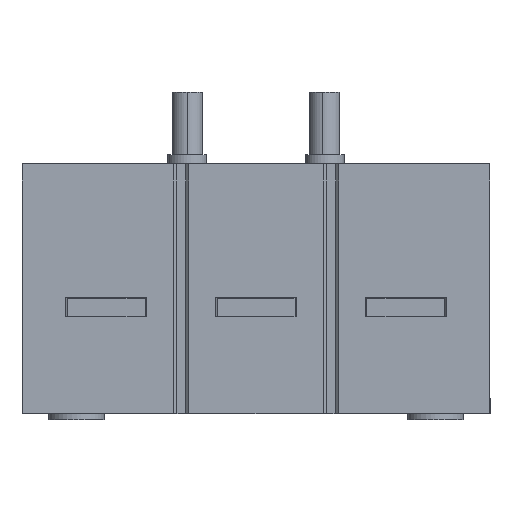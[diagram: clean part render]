
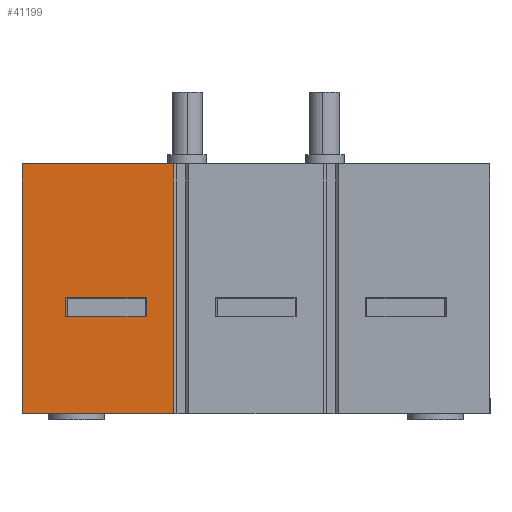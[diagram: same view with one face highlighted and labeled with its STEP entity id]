
A CAD part, front view. The second image highlights one B-rep face of the part: STEP entity #41199.
In plain terms, the highlighted planar face has unit normal (0, -1, 0) as drawn and (1, 0, 0) by its records, which use the part's own axes.
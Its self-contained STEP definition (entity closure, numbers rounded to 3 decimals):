
#1562 = VERTEX_POINT ( 'NONE', #21290 ) ;
#1852 = CARTESIAN_POINT ( 'NONE',  ( 138., 80., 26.5 ) ) ;
#3495 = DIRECTION ( 'NONE',  ( 0., 0., 1. ) ) ;
#3723 = CARTESIAN_POINT ( 'NONE',  ( 138., 0., 26.5 ) ) ;
#4289 = VECTOR ( 'NONE', #8763, 1000. ) ;
#4494 = EDGE_CURVE ( 'NONE', #46233, #1562, #16596, .T. ) ;
#5103 = VECTOR ( 'NONE', #3495, 1000. ) ;
#5249 = ORIENTED_EDGE ( 'NONE', *, *, #8205, .T. ) ;
#7055 = VERTEX_POINT ( 'NONE', #35268 ) ;
#7261 = ORIENTED_EDGE ( 'NONE', *, *, #4494, .T. ) ;
#7865 = LINE ( 'NONE', #40661, #5103 ) ;
#8205 = EDGE_CURVE ( 'NONE', #44577, #14861, #17749, .T. ) ;
#8602 = VECTOR ( 'NONE', #14088, 1000. ) ;
#8763 = DIRECTION ( 'NONE',  ( 0., -1., 0. ) ) ;
#9161 = EDGE_CURVE ( 'NONE', #12284, #39030, #19150, .T. ) ;
#10694 = DIRECTION ( 'NONE',  ( 0., 1., 0. ) ) ;
#10931 = DIRECTION ( 'NONE',  ( -1., 0., 0. ) ) ;
#12284 = VERTEX_POINT ( 'NONE', #49931 ) ;
#13390 = EDGE_CURVE ( 'NONE', #51275, #12284, #7865, .T. ) ;
#14088 = DIRECTION ( 'NONE',  ( 0., 0., 1. ) ) ;
#14671 = VECTOR ( 'NONE', #47122, 1000. ) ;
#14861 = VERTEX_POINT ( 'NONE', #1852 ) ;
#15337 = EDGE_CURVE ( 'NONE', #7055, #44577, #30575, .T. ) ;
#15493 = ORIENTED_EDGE ( 'NONE', *, *, #41858, .T. ) ;
#15696 = LINE ( 'NONE', #51782, #52934 ) ;
#15883 = LINE ( 'NONE', #45177, #25245 ) ;
#15965 = EDGE_CURVE ( 'NONE', #1562, #51275, #37504, .T. ) ;
#16596 = LINE ( 'NONE', #20623, #34663 ) ;
#17749 = LINE ( 'NONE', #44021, #40060 ) ;
#17863 = ORIENTED_EDGE ( 'NONE', *, *, #13390, .T. ) ;
#18272 = PLANE ( 'NONE',  #30369 ) ;
#18357 = CARTESIAN_POINT ( 'NONE',  ( 138., 0., 75. ) ) ;
#19139 = EDGE_CURVE ( 'NONE', #46513, #7055, #29723, .T. ) ;
#19150 = LINE ( 'NONE', #48993, #30601 ) ;
#20623 = CARTESIAN_POINT ( 'NONE',  ( 138., 37.3, 61. ) ) ;
#21290 = CARTESIAN_POINT ( 'NONE',  ( 138., 37.3, 35. ) ) ;
#21455 = CARTESIAN_POINT ( 'NONE',  ( 138., 37.3, 35. ) ) ;
#23381 = DIRECTION ( 'NONE',  ( 0., 0., 1. ) ) ;
#24571 = ORIENTED_EDGE ( 'NONE', *, *, #24674, .F. ) ;
#24674 = EDGE_CURVE ( 'NONE', #46513, #14861, #15696, .T. ) ;
#25245 = VECTOR ( 'NONE', #41351, 1000. ) ;
#25387 = CARTESIAN_POINT ( 'NONE',  ( 138., 31., 61. ) ) ;
#27764 = ORIENTED_EDGE ( 'NONE', *, *, #19139, .T. ) ;
#28685 = ORIENTED_EDGE ( 'NONE', *, *, #9161, .T. ) ;
#29172 = CARTESIAN_POINT ( 'NONE',  ( 138., 80., 75. ) ) ;
#29304 = CARTESIAN_POINT ( 'NONE',  ( 138., 80., 75. ) ) ;
#29723 = LINE ( 'NONE', #29172, #32366 ) ;
#30369 = AXIS2_PLACEMENT_3D ( 'NONE', #39669, #10931, #23381 ) ;
#30575 = LINE ( 'NONE', #18357, #14671 ) ;
#30601 = VECTOR ( 'NONE', #52269, 1000. ) ;
#30896 = CARTESIAN_POINT ( 'NONE',  ( 138., 31., 35. ) ) ;
#31597 = ORIENTED_EDGE ( 'NONE', *, *, #15337, .T. ) ;
#31852 = VERTEX_POINT ( 'NONE', #25387 ) ;
#32366 = VECTOR ( 'NONE', #46516, 1000. ) ;
#34663 = VECTOR ( 'NONE', #37181, 1000. ) ;
#35268 = CARTESIAN_POINT ( 'NONE',  ( 138., 0., 75. ) ) ;
#35697 = ORIENTED_EDGE ( 'NONE', *, *, #15965, .T. ) ;
#36489 = LINE ( 'NONE', #52256, #8602 ) ;
#37181 = DIRECTION ( 'NONE',  ( 0., 0., -1. ) ) ;
#37504 = LINE ( 'NONE', #21455, #4289 ) ;
#39030 = VERTEX_POINT ( 'NONE', #42318 ) ;
#39669 = CARTESIAN_POINT ( 'NONE',  ( 138., 80., 75. ) ) ;
#40060 = VECTOR ( 'NONE', #10694, 1000. ) ;
#40369 = DIRECTION ( 'NONE',  ( 0., 0., -1. ) ) ;
#40661 = CARTESIAN_POINT ( 'NONE',  ( 138., 31., 61. ) ) ;
#41199 = ADVANCED_FACE ( 'NONE', ( #51101, #44005 ), #18272, .F. ) ;
#41254 = EDGE_LOOP ( 'NONE', ( #31597, #5249, #24571, #27764 ) ) ;
#41351 = DIRECTION ( 'NONE',  ( 0., 1., 0. ) ) ;
#41858 = EDGE_CURVE ( 'NONE', #31852, #46233, #15883, .T. ) ;
#42318 = CARTESIAN_POINT ( 'NONE',  ( 138., 31., 60.5 ) ) ;
#44005 = FACE_BOUND ( 'NONE', #49608, .T. ) ;
#44021 = CARTESIAN_POINT ( 'NONE',  ( 138., -2., 26.5 ) ) ;
#44577 = VERTEX_POINT ( 'NONE', #3723 ) ;
#45177 = CARTESIAN_POINT ( 'NONE',  ( 138., 37.3, 61. ) ) ;
#46107 = ORIENTED_EDGE ( 'NONE', *, *, #49020, .T. ) ;
#46233 = VERTEX_POINT ( 'NONE', #52152 ) ;
#46513 = VERTEX_POINT ( 'NONE', #29304 ) ;
#46516 = DIRECTION ( 'NONE',  ( 0., -1., 0. ) ) ;
#47122 = DIRECTION ( 'NONE',  ( 0., 0., -1. ) ) ;
#48993 = CARTESIAN_POINT ( 'NONE',  ( 138., 31., 61. ) ) ;
#49020 = EDGE_CURVE ( 'NONE', #39030, #31852, #36489, .T. ) ;
#49608 = EDGE_LOOP ( 'NONE', ( #35697, #17863, #28685, #46107, #15493, #7261 ) ) ;
#49931 = CARTESIAN_POINT ( 'NONE',  ( 138., 31., 35.5 ) ) ;
#51101 = FACE_OUTER_BOUND ( 'NONE', #41254, .T. ) ;
#51275 = VERTEX_POINT ( 'NONE', #30896 ) ;
#51782 = CARTESIAN_POINT ( 'NONE',  ( 138., 80., 75. ) ) ;
#52152 = CARTESIAN_POINT ( 'NONE',  ( 138., 37.3, 61. ) ) ;
#52256 = CARTESIAN_POINT ( 'NONE',  ( 138., 31., 61. ) ) ;
#52269 = DIRECTION ( 'NONE',  ( 0., 0., 1. ) ) ;
#52934 = VECTOR ( 'NONE', #40369, 1000. ) ;
